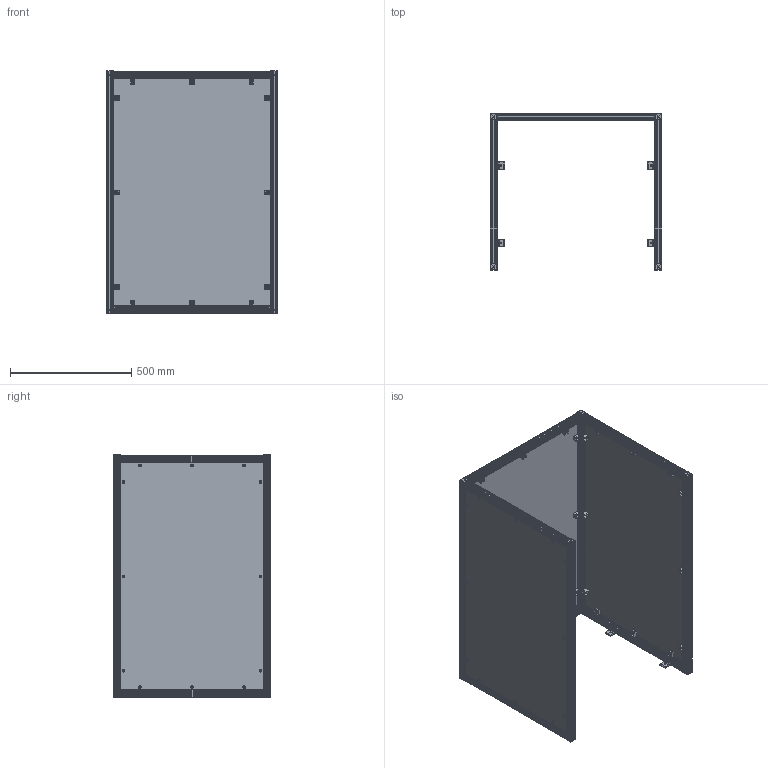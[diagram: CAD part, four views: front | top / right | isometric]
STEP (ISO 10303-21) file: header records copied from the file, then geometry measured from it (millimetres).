
FILE_DESCRIPTION(/* description */ ('Schutzeinhausung, 650x710x1000 (TxBxH)'),/* implementation_level */ '2;1');
FILE_NAME(/* name */ 'P:\CAD-Daten-für-Kunden\13_Umhausungen\Schutzeinhausung_SE65_ANR35827.stp',/* time_stamp */ '2022-05-09T10:53:19+02:00',/* author */ ('tse'),/* organization */ (''),/* preprocessor_version */ 'ST-DEVELOPER v18',/* originating_system */ 'Autodesk Inventor 2020',/* authorisation */ '');
FILE_SCHEMA (('AUTOMOTIVE_DESIGN { 1 0 10303 214 3 1 1 }'));
Products named in the file (5): 35843; 35843-1; Schutzeinhausung Scheibe 710x1000; Schutzeinhausung Scheibe 650x1000; Schutzeinhausung - Befestigungswinkel
Assembly tree (8 placements, depth 2):
  35843
    35843-1
    Schutzeinhausung Scheibe 710x1000
    Schutzeinhausung Scheibe 650x1000  x2
    Schutzeinhausung - Befestigungswinkel  x4
Bounding box: 710 x 650 x 1003 mm (x, y, z)
Volume: 9812801.1 mm3; surface area: 6251849.8 mm2
Topology: 8 solids, 8 shells, 3747 faces, 11074 edges, 7136 vertices
Faces by surface type: plane 2799, cylinder 784, cone 92, torus 52, sphere 20
Full cylindrical faces by diameter (mm): 5 x16, 5.5 x20, 6 x88, 7 x44, 10.5 x52
Entity records: 120754 total; most frequent: CARTESIAN_POINT 23572, ORIENTED_EDGE 21124, DIRECTION 19382, EDGE_CURVE 10562, LINE 8068, VECTOR 8068, VERTEX_POINT 6814, AXIS2_PLACEMENT_3D 5657
